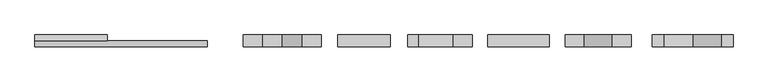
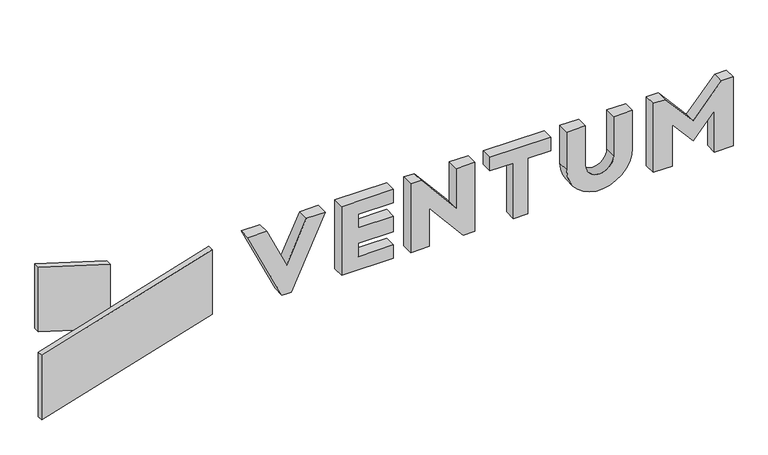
"""IFC4 building model written with IfcOpenShell, lengths in millimetres: proxy geometry, Ventum-logo_r2017_Big : Ventum-logo_r2017_Big."""

from ifc_helpers import new_model, si_unit, point, frame, frame_2d, origin, place, context, project, spatial, polyline, circle_curve, trimmed, segment, composite_curve, outline, extrude, source, transform, mapped, element, save


def generic_models_62431cef(model_context):
    return source(origin(), model_context, "Body", "SweptSolid", [
        extrude(outline(polyline([(-1301.1713712, -9471.2640389), (-2236.7608263, -6411.0888198), (663.2391737, -6411.0888198), (1598.8286288, -9471.2640389), (-1301.1713712, -9471.2640389)])), frame((0.0, -250.0, 0.0), z_axis=(0.0, 1.0, 0.0), x_axis=(0.0, 0.0, 1.0)), (0.0, 0.0, 1.0), 250.0),
        extrude(outline(polyline([(-5123.6942431, -9471.2640389), (-2901.6692872, -2203.3478936), (-1.6692872, -2203.3478936), (-2223.6942431, -9471.2640389), (-5123.6942431, -9471.2640389)])), frame((0.0, -500.0, 0.0), z_axis=(0.0, 1.0, 0.0), x_axis=(0.0, 0.0, 1.0)), (0.0, 0.0, 1.0), 250.0),
        extrude(outline(polyline([(-3091.6692872, 760.4900865), (-3091.6692872, 960.4900865), (-3091.6692872, 1159.8556529), (8.3307128, 2605.4093932), (8.3307128, 1805.4093932), (-1804.2848613, 960.1728697), (8.3307128, 114.9363462), (8.3307128, -685.0636538), (-3091.6692872, 760.4900865)])), frame((0.0, -500.0, 0.0), z_axis=(0.0, 1.0, 0.0), x_axis=(0.0, 0.0, 1.0)), (0.0, 0.0, 1.0), 500.0),
        extrude(outline(polyline([(-3091.6692872, 3307.7313314), (-3091.6692872, 5507.7313314), (-2491.6692872, 5507.7313314), (-2491.6692872, 4007.7313314), (-1891.6692872, 4007.7313314), (-1891.6692872, 5507.7313314), (-1191.6692872, 5507.7313314), (-1191.6692872, 4007.7313314), (-591.6692872, 4007.7313314), (-591.6692872, 5507.7313314), (8.3307128, 5507.7313314), (8.3307128, 3307.7313314), (-3091.6692872, 3307.7313314)])), frame((0.0, -500.0, 0.0), z_axis=(0.0, 1.0, 0.0), x_axis=(0.0, 0.0, 1.0)), (0.0, 0.0, 1.0), 500.0),
        extrude(outline(polyline([(8.3307128, 6245.443912), (-3091.6692872, 6245.443912), (-3091.6692872, 7045.443912), (-1378.1024245, 7045.443912), (-3091.6692872, 8483.2972346), (-3091.6692872, 8983.2972346), (8.3307128, 8983.2972346), (8.3307128, 8183.2972346), (-1772.493928, 8183.2972346), (8.3307128, 6689.0079353), (8.3307128, 6245.443912)])), frame((0.0, -500.0, 0.0), z_axis=(0.0, 1.0, 0.0), x_axis=(0.0, 0.0, 1.0)), (0.0, 0.0, 1.0), 500.0),
        extrude(outline(polyline([(8.3307128, 12220.2086297), (8.3307128, 9620.2086297), (-591.6692872, 9620.2086297), (-591.6692872, 10620.2086297), (-3091.6692872, 10620.2086297), (-3091.6692872, 11220.2086297), (-591.6692872, 11220.2086297), (-591.6692872, 12220.2086297), (8.3307128, 12220.2086297)])), frame((0.0, -500.0, 0.0), z_axis=(0.0, 1.0, 0.0), x_axis=(0.0, 0.0, 1.0)), (0.0, 0.0, 1.0), 500.0),
        extrude(outline(composite_curve([segment(trimmed(circle_curve(frame_2d((-1691.6692872, 14288.1957701)), 1400.0), [point((-1691.6692872, 12888.1957701))], [point((-1691.6692872, 15688.1957701))], False, "CARTESIAN"), True, "CONTINUOUS"), segment(polyline([(-1691.6692872, 15688.1957701), (8.3307128, 15688.1957701), (8.3307128, 14888.1957701), (-1758.5140422, 14888.1957701)]), True, "CONTINUOUS"), segment(trimmed(circle_curve(frame_2d((-1758.5140422, 14288.1957701)), 600.0), [point((-1758.5140422, 14888.1957701))], [point((-1758.5140422, 13688.1957701))], True, "CARTESIAN"), True, "CONTINUOUS"), segment(polyline([(-1758.5140422, 13688.1957701), (8.3307128, 13688.1957701), (8.3307128, 12888.1957701), (-1691.6692872, 12888.1957701)]), True, "CONTINUOUS")], self_intersect=False)), frame((0.0, -500.0, 0.0), z_axis=(0.0, 1.0, 0.0), x_axis=(0.0, 0.0, 1.0)), (0.0, 0.0, 1.0), 500.0),
        extrude(outline(polyline([(8.3307128, 16576.5698391), (-3091.6692872, 16576.5698391), (-3091.6692872, 17376.5698391), (-1236.7798094, 17376.5698391), (-2272.1113759, 18276.5698391), (-1236.7798094, 19176.5698391), (-3091.6692872, 19176.5698391), (-3091.6692872, 19976.5698391), (8.3307128, 19976.5698391), (8.3307128, 19476.5698391), (-1372.1113759, 18276.5698391), (8.3307128, 17076.5698391), (8.3307128, 16576.5698391)])), frame((0.0, -500.0, 0.0), z_axis=(0.0, 1.0, 0.0), x_axis=(0.0, 0.0, 1.0)), (0.0, 0.0, 1.0), 500.0),
    ])


if __name__ == "__main__":
    model = new_model("IFC4")
    model_context = context("Model", 3, world=origin())
    ifc_project = project(units=[si_unit("LENGTHUNIT", "METRE", prefix="MILLI")], contexts=[model_context])
    site = spatial("IfcSite", under=ifc_project)
    building = spatial("IfcBuilding", under=site)
    placement = place(None, origin())
    generic_models_shape = generic_models_62431cef(model_context)
    element("IfcBuildingElementProxy", 1, Name="Ventum-logo_r2017_Big : Ventum-logo_r2017_Big", ObjectType="Ventum-logo_r2017_Big : Ventum-logo_r2017_Big", at=placement, inside=building, context=model_context, shape_type="MappedRepresentation", body=[
        mapped(generic_models_shape, transform((0.0, 0.0, 0.0), x_axis=(1.0, 0.0, 0.0), y_axis=(0.0, 1.0, 0.0), z_axis=(0.0, 0.0, 1.0))),
    ])
    save(model, "model.ifc")
